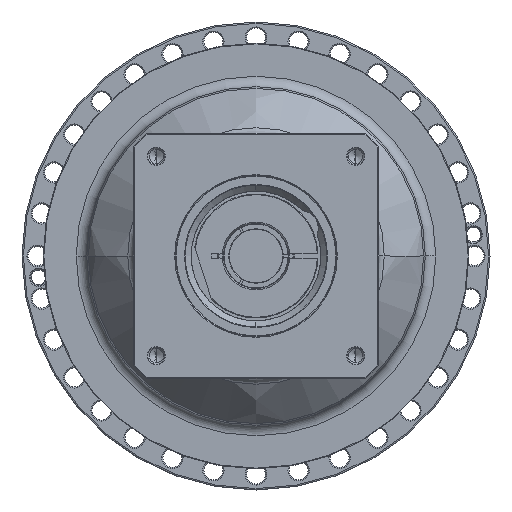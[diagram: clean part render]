
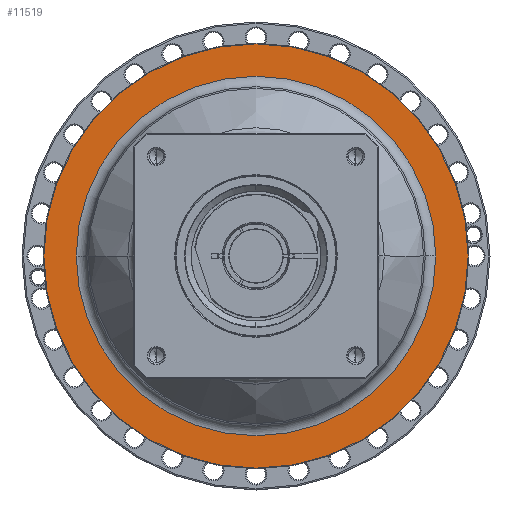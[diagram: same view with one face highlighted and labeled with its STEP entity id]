
A CAD part, left-side view. The second image highlights one B-rep face of the part: STEP entity #11519.
In plain terms, the highlighted planar face has unit normal (-1, 0, 0) as drawn and (1, 0, 0) by its records, which use the part's own axes.
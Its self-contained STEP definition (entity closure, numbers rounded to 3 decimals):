
#11032=CARTESIAN_POINT('',(-49.984,0.,0.));
#11033=DIRECTION('',(1.,0.,0.));
#11034=DIRECTION('',(0.,1.,0.));
#11035=AXIS2_PLACEMENT_3D('',#11032,#11033,#11034);
#11037=CARTESIAN_POINT('',(-49.984,0.,0.));
#11038=DIRECTION('',(1.,0.,0.));
#11039=DIRECTION('',(0.,-1.,0.));
#11040=AXIS2_PLACEMENT_3D('',#11037,#11038,#11039);
#11042=CARTESIAN_POINT('',(-50.,0.,0.));
#11043=DIRECTION('',(-1.,0.,0.));
#11044=DIRECTION('',(0.,-1.,0.));
#11045=AXIS2_PLACEMENT_3D('',#11042,#11043,#11044);
#11047=CARTESIAN_POINT('',(-50.,0.,0.));
#11048=DIRECTION('',(-1.,0.,0.));
#11049=DIRECTION('',(0.,1.,0.));
#11050=AXIS2_PLACEMENT_3D('',#11047,#11048,#11049);
#11172=CARTESIAN_POINT('',(-50.,-150.5,0.));
#11173=CARTESIAN_POINT('',(-50.,150.5,0.));
#11174=VERTEX_POINT('',#11172);
#11175=VERTEX_POINT('',#11173);
#11228=CARTESIAN_POINT('',(-49.984,127.5,0.));
#11229=VERTEX_POINT('',#11228);
#11230=CARTESIAN_POINT('',(-49.984,-127.5,0.));
#11231=VERTEX_POINT('',#11230);
#11504=CARTESIAN_POINT('',(-50.,0.,0.));
#11505=DIRECTION('',(1.,0.,0.));
#11506=DIRECTION('',(0.,-1.,0.));
#11507=AXIS2_PLACEMENT_3D('',#11504,#11505,#11506);
#11508=PLANE('',#11507);
#11510=ORIENTED_EDGE('',*,*,#11509,.T.);
#11512=ORIENTED_EDGE('',*,*,#11511,.T.);
#11513=EDGE_LOOP('',(#11510,#11512));
#11514=FACE_OUTER_BOUND('',#11513,.F.);
#11515=ORIENTED_EDGE('',*,*,#11498,.T.);
#11516=ORIENTED_EDGE('',*,*,#11484,.T.);
#11517=EDGE_LOOP('',(#11515,#11516));
#11518=FACE_BOUND('',#11517,.F.);
#11519=ADVANCED_FACE('',(#11514,#11518),#11508,.T.);
#11036=CIRCLE('',#11035,127.5);
#11041=CIRCLE('',#11040,127.5);
#11046=CIRCLE('',#11045,150.5);
#11051=CIRCLE('',#11050,150.5);
#11484=EDGE_CURVE('',#11231,#11229,#11041,.T.);
#11498=EDGE_CURVE('',#11229,#11231,#11036,.T.);
#11509=EDGE_CURVE('',#11174,#11175,#11046,.T.);
#11511=EDGE_CURVE('',#11175,#11174,#11051,.T.);
